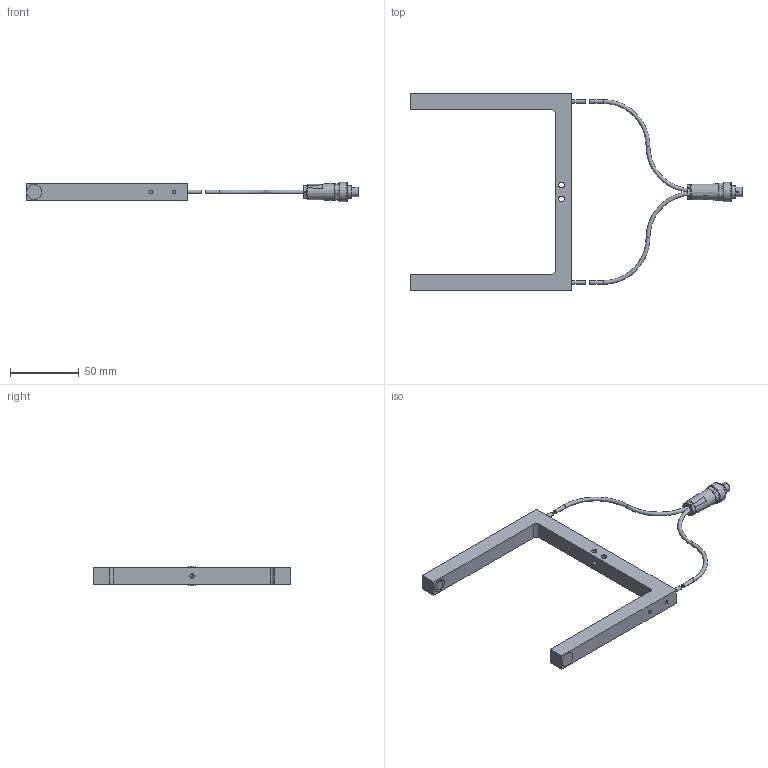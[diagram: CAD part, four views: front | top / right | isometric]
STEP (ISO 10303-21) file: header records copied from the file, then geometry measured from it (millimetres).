
FILE_DESCRIPTION(/* description */ (''),/* implementation_level */ '2;1');
FILE_NAME(/* name */ 'H:\ZVW\Inventor\E-Mail-Zeichnungen\STEP\HOMEPAGE\A-LAS-F12-...-120_100-C_0720_00.stp',/* time_stamp */ '2014-08-18T17:28:54+02:00',/* author */ ('TK-01'),/* organization */ (''),/* preprocessor_version */ 'ST-DEVELOPER v15.2',/* originating_system */ 'Autodesk Inventor 2014',/* authorisation */ '');
FILE_SCHEMA (('AUTOMOTIVE_DESIGN { 1 0 10303 214 3 1 1 }'));
Length unit declared in the file: millimetre
Products named in the file (1): Bauteil23
Bounding box: 242.1 x 144 x 14 mm (x, y, z)
Volume: 208710.5 mm3; surface area: 75830.1 mm2
Topology: 8 solids, 12 shells, 159 faces, 341 edges, 224 vertices
Faces by surface type: plane 72, cylinder 60, cone 11, sphere 9, torus 5, bspline 2
Full cylindrical faces by diameter (mm): 0.5 x7, 2.5 x8, 2.8 x4, 2.9 x2, 3.2 x1, 4.1 x2, 5.5 x1, 6 x1, 6.8 x1, 7.1 x1, 7.15 x2, 7.5 x1, 8 x1, 9 x2, 10 x2, 14 x1
Entity records: 4168 total; most frequent: CARTESIAN_POINT 802, DIRECTION 698, ORIENTED_EDGE 520, AXIS2_PLACEMENT_3D 305, EDGE_CURVE 256, EDGE_LOOP 248, VERTEX_POINT 196, ADVANCED_FACE 159
